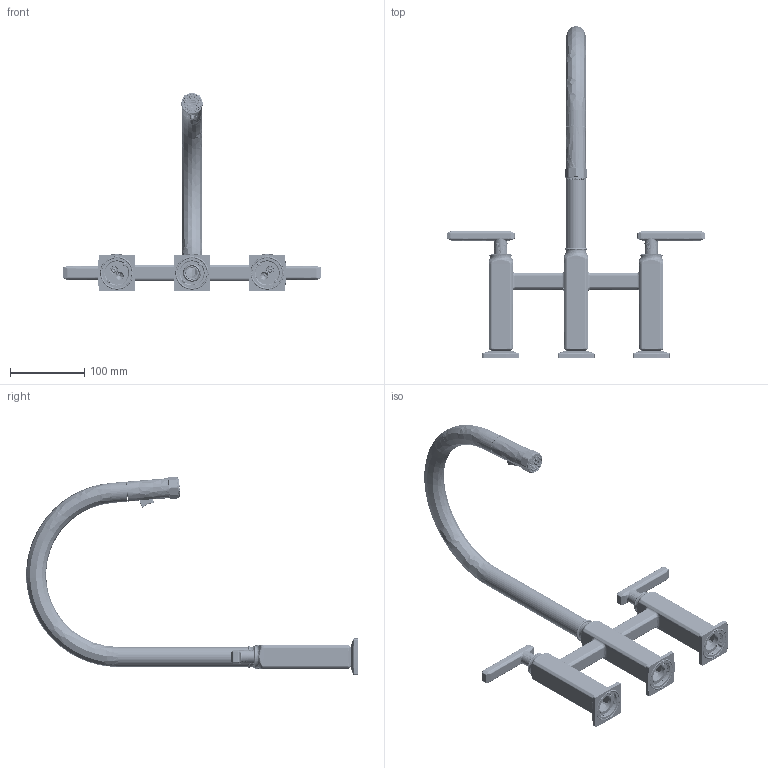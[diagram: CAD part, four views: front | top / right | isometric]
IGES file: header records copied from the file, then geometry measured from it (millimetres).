
Start section: SolidWorks IGES file using analytic representation for surfaces
Global section: file name: C:\Users\ccai\Desktop\CeliaC\Projects\0823-ADHOC-02350 & 02351 LINEART+NF\SKU_AP58D3LMseries_IGS\sku_AP58D3LMseries_igs.IGS; native system: SolidWorks 2023; preprocessor: SolidWorks 2023; author: ccai; date: 240809.102047; units: inch
Bounding box: 349.45 x 448.29 x 268.76 mm (x, y, z)
Surface area: 354821.1 mm2 (no closed solid volume)
Topology: 0 solids, 0 shells, 9421 faces, 87510 edges, 87218 vertices
Faces by surface type: bspline 5614, revolution 3807
